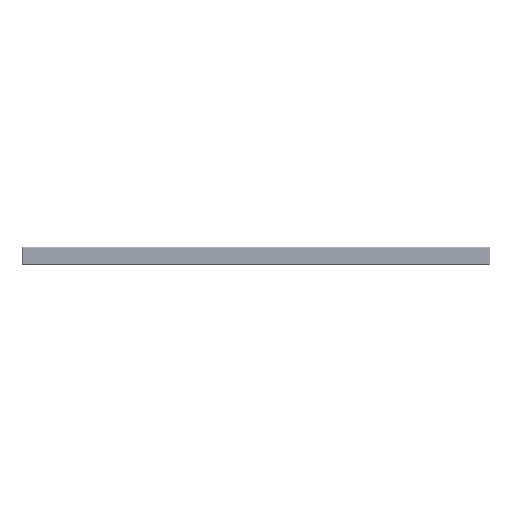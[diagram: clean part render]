
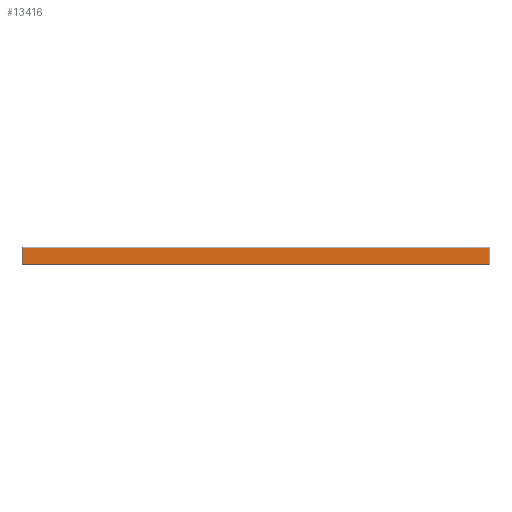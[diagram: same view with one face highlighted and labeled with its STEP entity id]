
A CAD part, front view. The second image highlights one B-rep face of the part: STEP entity #13416.
In plain terms, the highlighted planar face has unit normal (0, -1, 0).
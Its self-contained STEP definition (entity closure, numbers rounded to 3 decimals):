
#8406=FACE_OUTER_BOUND('',#40763,.T.);
#13416=ADVANCED_FACE('',(#8406),#16229,.T.);
#16229=PLANE('',#107684);
#23196=LINE('',#170039,#31052);
#23197=LINE('',#170042,#31053);
#23198=LINE('',#170044,#31054);
#23199=LINE('',#170046,#31055);
#31052=VECTOR('',#134059,1.);
#31053=VECTOR('',#134060,1.);
#31054=VECTOR('',#134061,1.);
#31055=VECTOR('',#134062,1.);
#40763=EDGE_LOOP('',(#65635,#65636,#65637,#65638));
#65635=ORIENTED_EDGE('',*,*,#90699,.T.);
#65636=ORIENTED_EDGE('',*,*,#90700,.T.);
#65637=ORIENTED_EDGE('',*,*,#90701,.T.);
#65638=ORIENTED_EDGE('',*,*,#90702,.T.);
#77488=VERTEX_POINT('',#170040);
#77489=VERTEX_POINT('',#170041);
#77490=VERTEX_POINT('',#170043);
#77491=VERTEX_POINT('',#170045);
#90699=EDGE_CURVE('',#77488,#77489,#23196,.T.);
#90700=EDGE_CURVE('',#77489,#77490,#23197,.T.);
#90701=EDGE_CURVE('',#77490,#77491,#23198,.T.);
#90702=EDGE_CURVE('',#77491,#77488,#23199,.T.);
#107684=AXIS2_PLACEMENT_3D('',#170047,#134063,#134064);
#134059=DIRECTION('',(-1.,0.,0.));
#134060=DIRECTION('',(0.,0.,-1.));
#134061=DIRECTION('',(1.,0.,0.));
#134062=DIRECTION('',(0.,0.,1.));
#134063=DIRECTION('',(0.,-1.,0.));
#134064=DIRECTION('',(0.,0.,-1.));
#170039=CARTESIAN_POINT('',(100.,0.,7.575));
#170040=CARTESIAN_POINT('',(199.6,0.,7.575));
#170041=CARTESIAN_POINT('',(0.4,0.,7.575));
#170042=CARTESIAN_POINT('',(0.4,0.,0.));
#170043=CARTESIAN_POINT('',(0.4,0.,0.425));
#170044=CARTESIAN_POINT('',(100.,0.,0.425));
#170045=CARTESIAN_POINT('',(199.6,0.,0.425));
#170046=CARTESIAN_POINT('',(199.6,0.,0.));
#170047=CARTESIAN_POINT('',(100.,0.,0.));
